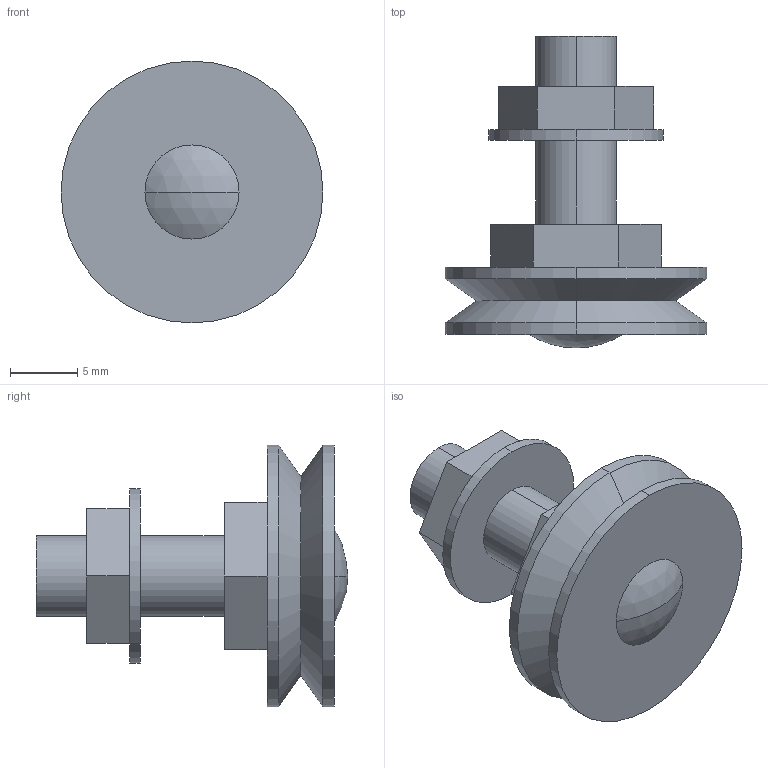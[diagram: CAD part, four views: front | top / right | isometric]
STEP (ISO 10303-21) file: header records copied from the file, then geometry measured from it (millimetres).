
FILE_DESCRIPTION(('STEP AP203'),'1');
FILE_NAME('glj_195_c_ns.stp','2021-09-29T05:38:58',('TraceParts'),('TraceParts S.A.'),'Spatial InterOp 3D',' ',' ');
FILE_SCHEMA(('CONFIG_CONTROL_DESIGN'));
Length unit declared in the file: millimetre
Products named in the file (1): 1
Bounding box: 19.5 x 23.2 x 19.5 mm (x, y, z)
Volume: 2296.5 mm3; surface area: 1677.1 mm2
Topology: 1 solids, 1 shells, 35 faces, 76 edges, 49 vertices
Faces by surface type: plane 19, cylinder 10, cone 4, sphere 2
Entity records: 1000 total; most frequent: DIRECTION 174, CARTESIAN_POINT 161, ORIENTED_EDGE 152, EDGE_CURVE 76, AXIS2_PLACEMENT_3D 62, LINE 50, VECTOR 50, VERTEX_POINT 49
